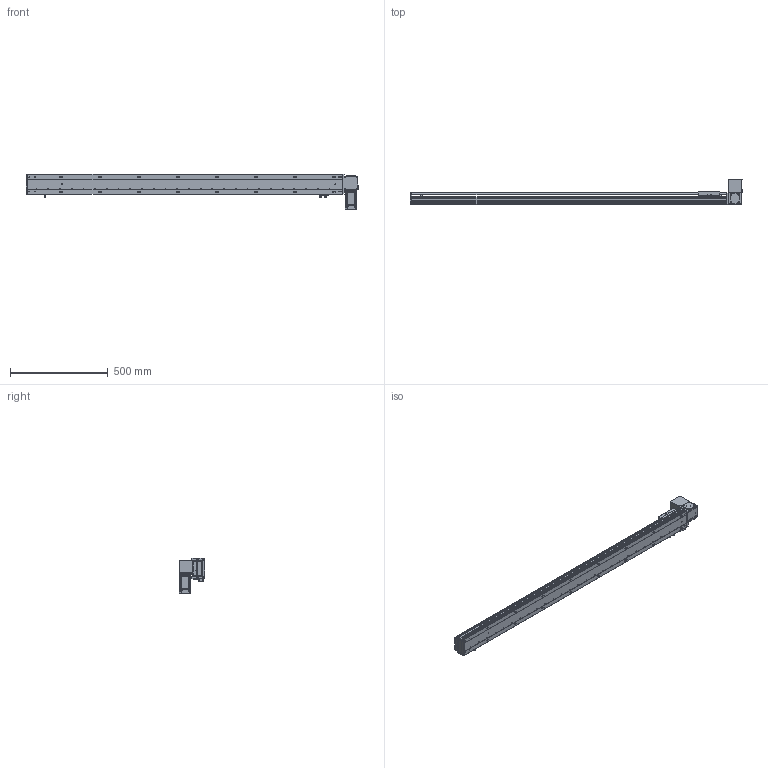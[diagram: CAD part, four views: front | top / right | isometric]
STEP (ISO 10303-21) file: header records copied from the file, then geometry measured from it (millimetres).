
FILE_DESCRIPTION (( 'STEP AP203' ), '1' );
FILE_NAME ('RY100-T-300-UL.SLDASM_1400.step', '2024-04-25T08:40:33', ( '盈信电脑' ), ( '东莞市道滘镇水果街19号' ), 'SwSTEP 2.0', 'SolidWorks 2016', '' );
FILE_SCHEMA (( 'CONFIG_CONTROL_DESIGN' ));
Length unit declared in the file: millimetre
Products named in the file (15): RY100-T左右折电机安装板; RY100-T翋肮祭謫裔啣; RY100綴裔啣; 1; RY100俋离覜茼え; 滅袉蝶18-10; RY100-T-300-RK倰第菁釱_1400; RY100-T-300-RK倰第奻裔_1400; RY100-T翋肮祭謫裔啣2; RY100-T肮祭謫臏賑輸; RY100-T粣創揤踡裔; 覜茼ん672; RY100-T-300-UL.SLDASM_1400; RY100-T肮祭謫翋盓傅釱; RY80-T肮祭謫奻殏俋欶
Assembly tree (17 placements, depth 2):
  RY100-T-300-UL.SLDASM_1400
    RY100-T-300-RK倰第菁釱_1400
    RY100-T-300-RK倰第奻裔_1400
    RY100-T肮祭謫臏賑輸
    RY100綴裔啣
    覜茼ん672  x3
    RY100俋离覜茼え
    RY100-T肮祭謫翋盓傅釱
    滅袉蝶18-10  x2
    RY100-T翋肮祭謫裔啣2
    RY100-T翋肮祭謫裔啣
    1
    RY100-T左右折电机安装板
    RY80-T肮祭謫奻殏俋欶
    RY100-T粣創揤踡裔
Bounding box: 1700 x 130.5 x 182.5 mm (x, y, z)
Volume: 3266550.7 mm3; surface area: 1364844.3 mm2
Topology: 17 solids, 17 shells, 2237 faces, 6228 edges, 4046 vertices
Faces by surface type: plane 1207, cylinder 819, cone 133, bspline 78
Entity records: 72242 total; most frequent: CARTESIAN_POINT 17415, ORIENTED_EDGE 11288, DIRECTION 10762, EDGE_CURVE 5644, VERTEX_POINT 3714, LINE 3630, VECTOR 3630, AXIS2_PLACEMENT_3D 3566
